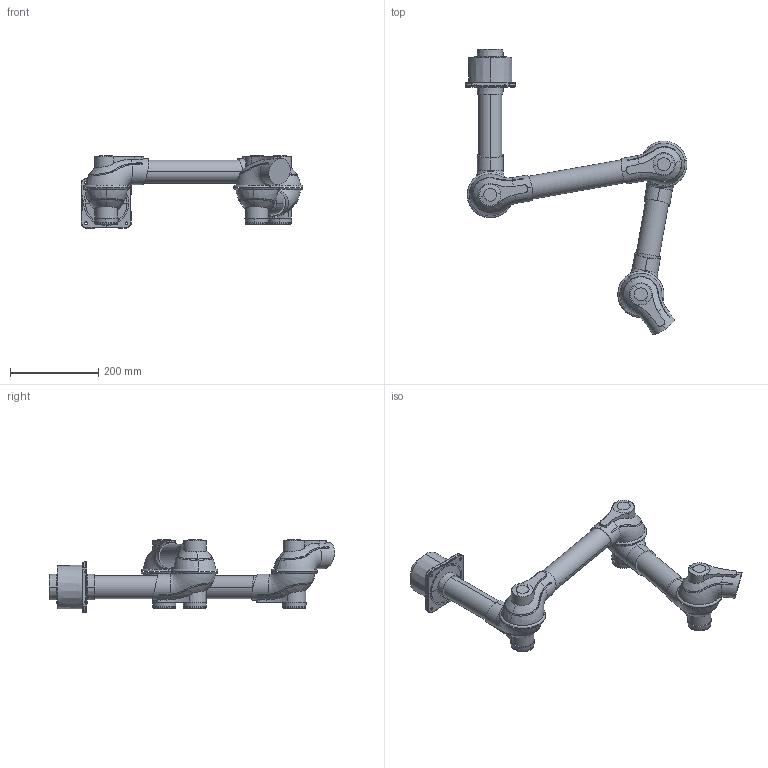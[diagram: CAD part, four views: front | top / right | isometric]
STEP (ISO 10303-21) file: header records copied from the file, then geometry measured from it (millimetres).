
FILE_DESCRIPTION((''),'2;1');
FILE_NAME('102215','2015-09-30T',('Tomas Bellgran'),(''),'PRO/ENGINEER BY PARAMETRIC TECHNOLOGY CORPORATION, 2013410','PRO/ENGINEER BY PARAMETRIC TECHNOLOGY CORPORATION, 2013410','');
FILE_SCHEMA(('AUTOMOTIVE_DESIGN { 1 0 10303 214 1 1 1 1 }'));
Length unit declared in the file: millimetre
Products named in the file (12): 100350; 102161; 102200; 102176; 102164; 102179; 102167; 102169; 105-5481; 101156; 102177; 102215
Assembly tree (18 placements, depth 4):
  102215
    102176
      100350
      102161
      102200
    102179
      102200  x2
      102164
    102169
      102167
      102200
    102177
      102200  x2
      101156
        105-5481
    101156  x2
      105-5481
Bounding box: 503.32 x 647.33 x 164.28 mm (x, y, z)
Volume: 5242322.6 mm3; surface area: 457427.4 mm2
Topology: 13 solids, 13 shells, 644 faces, 1546 edges, 945 vertices
Faces by surface type: bspline 240, plane 178, cone 111, cylinder 66, torus 28, sphere 21
Entity records: 27630 total; most frequent: CARTESIAN_POINT 13711, ORIENTED_EDGE 1500, DIRECTION 1036, PRESENTATION_STYLE_ASSIGNMENT 1033, STYLED_ITEM 1033, CURVE_STYLE 750, EDGE_CURVE 750, PROPERTY_DEFINITION 542
